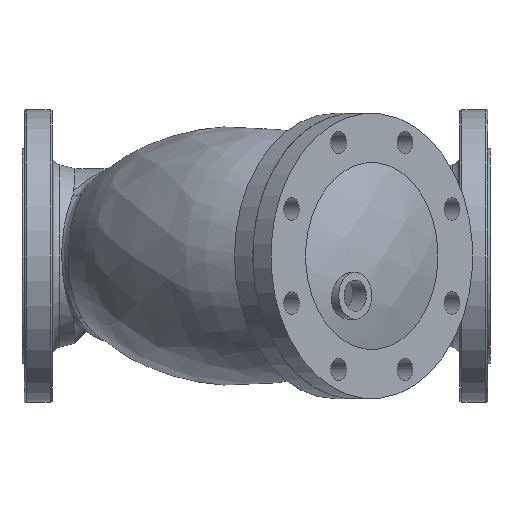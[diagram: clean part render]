
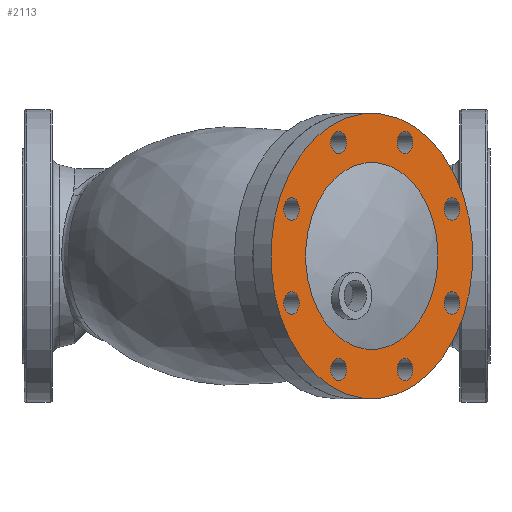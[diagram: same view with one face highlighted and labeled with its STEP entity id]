
A CAD part, front view. The second image highlights one B-rep face of the part: STEP entity #2113.
In plain terms, the highlighted planar face has unit normal (0.707, -0.707, 0) as drawn and (0, 1, 0) by its records, which use the part's own axes.
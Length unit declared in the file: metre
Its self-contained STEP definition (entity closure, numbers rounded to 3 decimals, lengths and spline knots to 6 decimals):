
#85=FACE_BOUND('',#595,.T.);
#86=FACE_BOUND('',#596,.T.);
#87=FACE_BOUND('',#597,.T.);
#88=FACE_BOUND('',#598,.T.);
#89=FACE_BOUND('',#599,.T.);
#90=FACE_BOUND('',#600,.T.);
#91=FACE_BOUND('',#601,.T.);
#92=FACE_BOUND('',#602,.T.);
#93=FACE_BOUND('',#603,.T.);
#127=PLANE('',#2437);
#429=FACE_OUTER_BOUND('',#594,.T.);
#594=EDGE_LOOP('',(#1952));
#595=EDGE_LOOP('',(#1953));
#596=EDGE_LOOP('',(#1954));
#597=EDGE_LOOP('',(#1955));
#598=EDGE_LOOP('',(#1956));
#599=EDGE_LOOP('',(#1957));
#600=EDGE_LOOP('',(#1958));
#601=EDGE_LOOP('',(#1959));
#602=EDGE_LOOP('',(#1960));
#603=EDGE_LOOP('',(#1961));
#840=CIRCLE('',#2407,0.0095);
#842=CIRCLE('',#2410,0.0095);
#844=CIRCLE('',#2413,0.0095);
#846=CIRCLE('',#2416,0.0095);
#848=CIRCLE('',#2419,0.0095);
#850=CIRCLE('',#2422,0.0095);
#852=CIRCLE('',#2425,0.0095);
#854=CIRCLE('',#2428,0.0095);
#857=CIRCLE('',#2435,0.122);
#859=CIRCLE('',#2438,0.0799);
#1036=VERTEX_POINT('',#10348);
#1038=VERTEX_POINT('',#10354);
#1040=VERTEX_POINT('',#10360);
#1042=VERTEX_POINT('',#10366);
#1044=VERTEX_POINT('',#10372);
#1046=VERTEX_POINT('',#10378);
#1048=VERTEX_POINT('',#10384);
#1050=VERTEX_POINT('',#10390);
#1057=VERTEX_POINT('',#10513);
#1059=VERTEX_POINT('',#10519);
#1332=EDGE_CURVE('',#1036,#1036,#840,.T.);
#1335=EDGE_CURVE('',#1038,#1038,#842,.T.);
#1338=EDGE_CURVE('',#1040,#1040,#844,.T.);
#1341=EDGE_CURVE('',#1042,#1042,#846,.T.);
#1344=EDGE_CURVE('',#1044,#1044,#848,.T.);
#1347=EDGE_CURVE('',#1046,#1046,#850,.T.);
#1350=EDGE_CURVE('',#1048,#1048,#852,.T.);
#1353=EDGE_CURVE('',#1050,#1050,#854,.T.);
#1362=EDGE_CURVE('',#1057,#1057,#857,.T.);
#1365=EDGE_CURVE('',#1059,#1059,#859,.T.);
#1952=ORIENTED_EDGE('',*,*,#1362,.T.);
#1953=ORIENTED_EDGE('',*,*,#1365,.F.);
#1954=ORIENTED_EDGE('',*,*,#1353,.F.);
#1955=ORIENTED_EDGE('',*,*,#1350,.F.);
#1956=ORIENTED_EDGE('',*,*,#1347,.F.);
#1957=ORIENTED_EDGE('',*,*,#1344,.F.);
#1958=ORIENTED_EDGE('',*,*,#1341,.F.);
#1959=ORIENTED_EDGE('',*,*,#1338,.F.);
#1960=ORIENTED_EDGE('',*,*,#1335,.F.);
#1961=ORIENTED_EDGE('',*,*,#1332,.F.);
#2113=ADVANCED_FACE('',(#429,#85,#86,#87,#88,#89,#90,#91,#92,#93),#127,
 .T.);
#2407=AXIS2_PLACEMENT_3D('',#10350,#2951,#2952);
#2410=AXIS2_PLACEMENT_3D('',#10356,#2958,#2959);
#2413=AXIS2_PLACEMENT_3D('',#10362,#2965,#2966);
#2416=AXIS2_PLACEMENT_3D('',#10368,#2972,#2973);
#2419=AXIS2_PLACEMENT_3D('',#10374,#2979,#2980);
#2422=AXIS2_PLACEMENT_3D('',#10380,#2986,#2987);
#2425=AXIS2_PLACEMENT_3D('',#10386,#2993,#2994);
#2428=AXIS2_PLACEMENT_3D('',#10392,#3000,#3001);
#2435=AXIS2_PLACEMENT_3D('',#10514,#3016,#3017);
#2437=AXIS2_PLACEMENT_3D('',#10518,#3021,#3022);
#2438=AXIS2_PLACEMENT_3D('',#10520,#3023,#3024);
#2951=DIRECTION('center_axis',(0.,1.,0.));
#2952=DIRECTION('ref_axis',(-0.707,0.,0.707));
#2958=DIRECTION('center_axis',(0.,1.,0.));
#2959=DIRECTION('ref_axis',(-1.,0.,0.));
#2965=DIRECTION('center_axis',(0.,1.,0.));
#2966=DIRECTION('ref_axis',(-0.707,0.,-0.707));
#2972=DIRECTION('center_axis',(0.,1.,0.));
#2973=DIRECTION('ref_axis',(0.,0.,-1.));
#2979=DIRECTION('center_axis',(0.,1.,0.));
#2980=DIRECTION('ref_axis',(0.707,0.,-0.707));
#2986=DIRECTION('center_axis',(0.,1.,0.));
#2987=DIRECTION('ref_axis',(1.,0.,0.));
#2993=DIRECTION('center_axis',(0.,1.,0.));
#2994=DIRECTION('ref_axis',(0.707,0.,0.707));
#3000=DIRECTION('center_axis',(0.,1.,0.));
#3001=DIRECTION('ref_axis',(0.,0.,1.));
#3016=DIRECTION('center_axis',(0.,1.,0.));
#3017=DIRECTION('ref_axis',(0.,0.,1.));
#3021=DIRECTION('center_axis',(0.,1.,0.));
#3022=DIRECTION('ref_axis',(1.,0.,0.));
#3023=DIRECTION('center_axis',(0.,1.,0.));
#3024=DIRECTION('ref_axis',(0.,0.,1.));
#10348=CARTESIAN_POINT('',(0.040182,0.022,-0.106507));
#10350=CARTESIAN_POINT('Origin',(0.040182,0.022,-0.097007));
#10354=CARTESIAN_POINT('',(0.097007,0.022,-0.049682));
#10356=CARTESIAN_POINT('Origin',(0.097007,0.022,-0.040182));
#10360=CARTESIAN_POINT('',(0.097007,0.022,0.030682));
#10362=CARTESIAN_POINT('Origin',(0.097007,0.022,0.040182));
#10366=CARTESIAN_POINT('',(0.040182,0.022,0.087507));
#10368=CARTESIAN_POINT('Origin',(0.040182,0.022,0.097007));
#10372=CARTESIAN_POINT('',(-0.040182,0.022,0.087507));
#10374=CARTESIAN_POINT('Origin',(-0.040182,0.022,0.097007));
#10378=CARTESIAN_POINT('',(-0.097007,0.022,0.030682));
#10380=CARTESIAN_POINT('Origin',(-0.097007,0.022,0.040182));
#10384=CARTESIAN_POINT('',(-0.097007,0.022,-0.049682));
#10386=CARTESIAN_POINT('Origin',(-0.097007,0.022,-0.040182));
#10390=CARTESIAN_POINT('',(-0.040182,0.022,-0.106507));
#10392=CARTESIAN_POINT('Origin',(-0.040182,0.022,-0.097007));
#10513=CARTESIAN_POINT('',(0.,0.022,-0.122));
#10514=CARTESIAN_POINT('Origin',(0.,0.022,0.));
#10518=CARTESIAN_POINT('Origin',(-0.122,0.022,0.));
#10519=CARTESIAN_POINT('',(-0.0799,0.022,0.));
#10520=CARTESIAN_POINT('Origin',(0.,0.022,0.));
